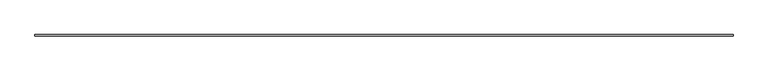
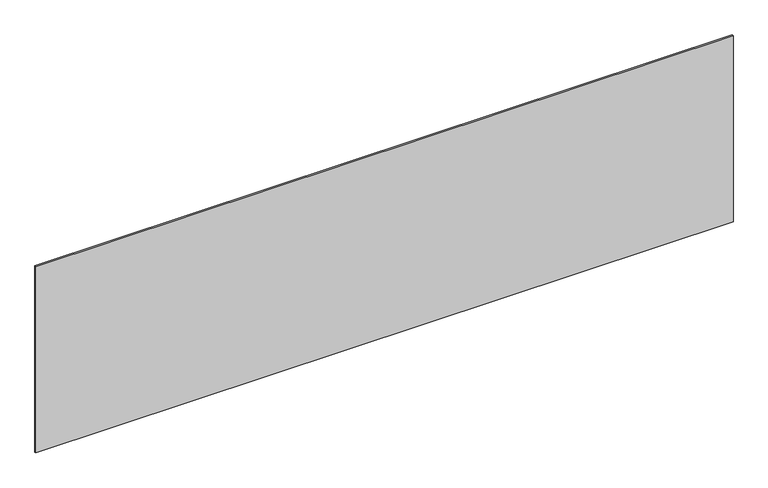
"""IFC4 building model written with IfcOpenShell, lengths in millimetres: plate geometry, システム パネル : 標準."""

from ifc_helpers import new_model, si_unit, origin, origin_with_axes, place, context, project, spatial, polyline, outline, extrude, source, transform, mapped, element, save


def plate_8de86a88(model_context):
    return source(origin(), model_context, "Body", "SweptSolid", [
        extrude(outline(polyline([(2281.6666667, -5.0), (-2281.6666667, -5.0), (-2281.6666667, 5.0), (2281.6666667, 5.0), (2281.6666667, -5.0)])), origin_with_axes(), (0.0, 0.0, 1.0), 1288.1660768),
    ])


if __name__ == "__main__":
    model = new_model("IFC4")
    model_context = context("Model", 3, world=origin())
    ifc_project = project(units=[si_unit("LENGTHUNIT", "METRE", prefix="MILLI")], contexts=[model_context])
    site = spatial("IfcSite", under=ifc_project)
    building = spatial("IfcBuilding", under=site)
    placement = place(None, origin())
    plate_shape = plate_8de86a88(model_context)
    element("IfcPlate", 1, ObjectType="システム パネル : 標準", at=placement, inside=building, context=model_context, shape_type="MappedRepresentation", body=[
        mapped(plate_shape, transform((0.0, 0.0, 0.0), x_axis=(1.0, 0.0, 0.0), y_axis=(0.0, 1.0, 0.0), z_axis=(0.0, 0.0, 1.0))),
    ])
    save(model, "model.ifc")
